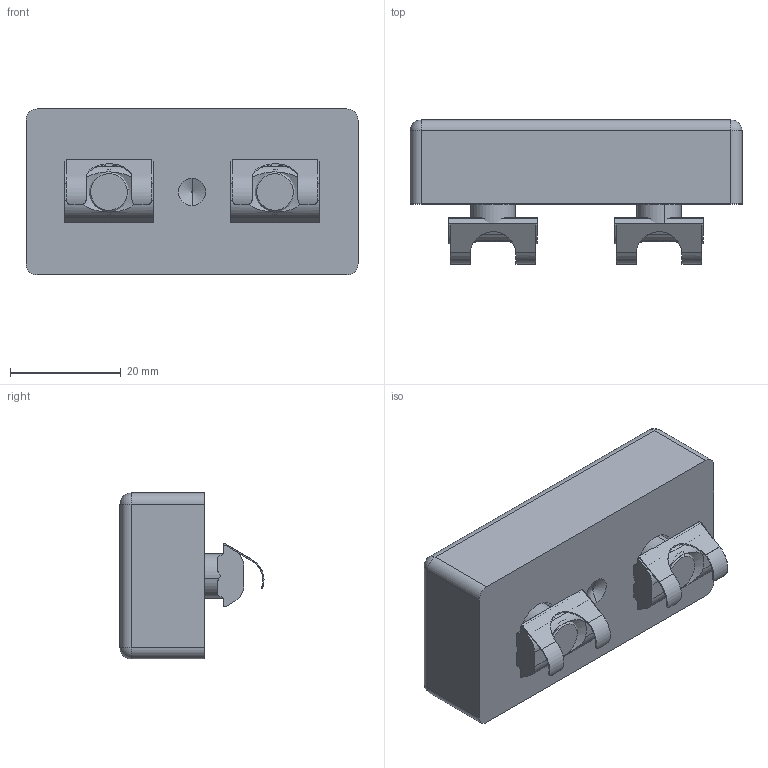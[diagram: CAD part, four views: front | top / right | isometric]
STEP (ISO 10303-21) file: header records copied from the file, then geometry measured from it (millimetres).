
FILE_DESCRIPTION (( 'STEP AP214' ), '1' );
FILE_NAME ('1.3034 Yhdistämislevy 30X60.STEP', '2025-09-08T09:02:33', ( '' ), ( '' ), 'SwSTEP 2.0', 'SolidWorks 2025', '' );
FILE_SCHEMA (( 'AUTOMOTIVE_DESIGN' ));
Length unit declared in the file: millimetre
Products named in the file (1): 1.3034 Yhdistämislevy 30X60
Bounding box: 60 x 26.04 x 30 mm (x, y, z)
Volume: 27711.3 mm3; surface area: 10157.1 mm2
Topology: 5 solids, 5 shells, 199 faces, 510 edges, 316 vertices
Faces by surface type: plane 101, cylinder 72, cone 14, torus 8, sphere 4
Entity records: 8430 total; most frequent: CARTESIAN_POINT 1408, ORIENTED_EDGE 1004, DIRECTION 992, EDGE_CURVE 502, AXIS2_PLACEMENT_3D 356, VERTEX_POINT 316, VECTOR 280, LINE 280
